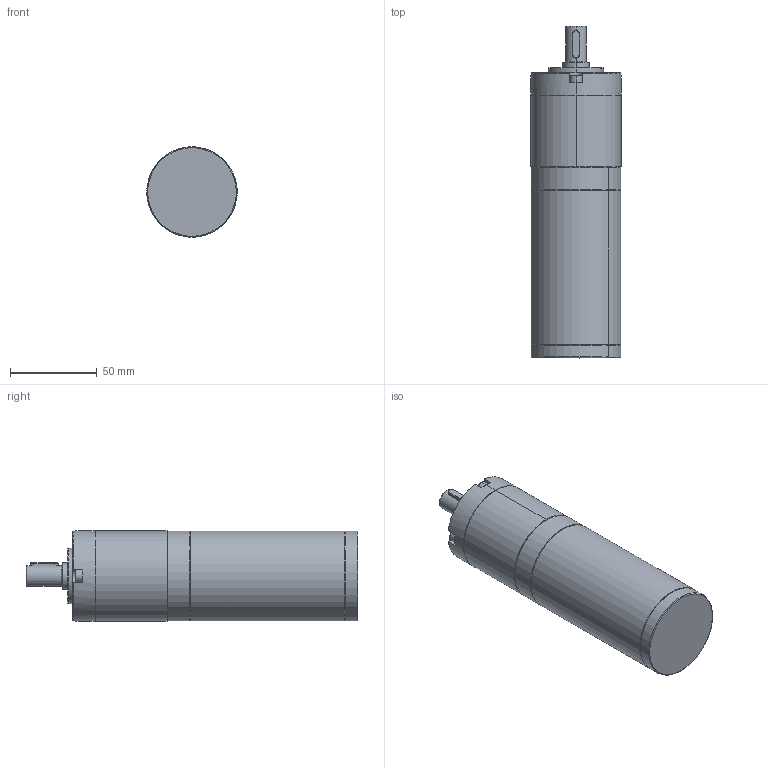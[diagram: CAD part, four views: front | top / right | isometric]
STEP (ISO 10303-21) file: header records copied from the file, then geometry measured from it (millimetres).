
FILE_DESCRIPTION (( 'STEP AP203' ), '1' );
FILE_NAME ('52BLD60W熬厒掀媼撰淕儂.STEP', '2021-07-16T02:59:46', ( '' ), ( '' ), 'SwSTEP 2.0', 'SolidWorks 2021', '' );
FILE_SCHEMA (( 'CONFIG_CONTROL_DESIGN' ));
Length unit declared in the file: millimetre
Products named in the file (3): 52PN媼撰; 52BLD60W熬厒掀媼撰淕儂; 52酗
Assembly tree (2 placements, depth 2):
  52BLD60W熬厒掀媼撰淕儂
    52PN媼撰
    52酗
Bounding box: 52 x 191.2 x 52 mm (x, y, z)
Volume: 348957.5 mm3; surface area: 38233.5 mm2
Topology: 2 solids, 2 shells, 162 faces, 378 edges, 225 vertices
Faces by surface type: plane 59, cone 46, cylinder 45, bspline 10, torus 2
Entity records: 5151 total; most frequent: CARTESIAN_POINT 1190, DIRECTION 806, ORIENTED_EDGE 736, EDGE_CURVE 368, AXIS2_PLACEMENT_3D 305, VERTEX_POINT 225, LINE 196, VECTOR 196
